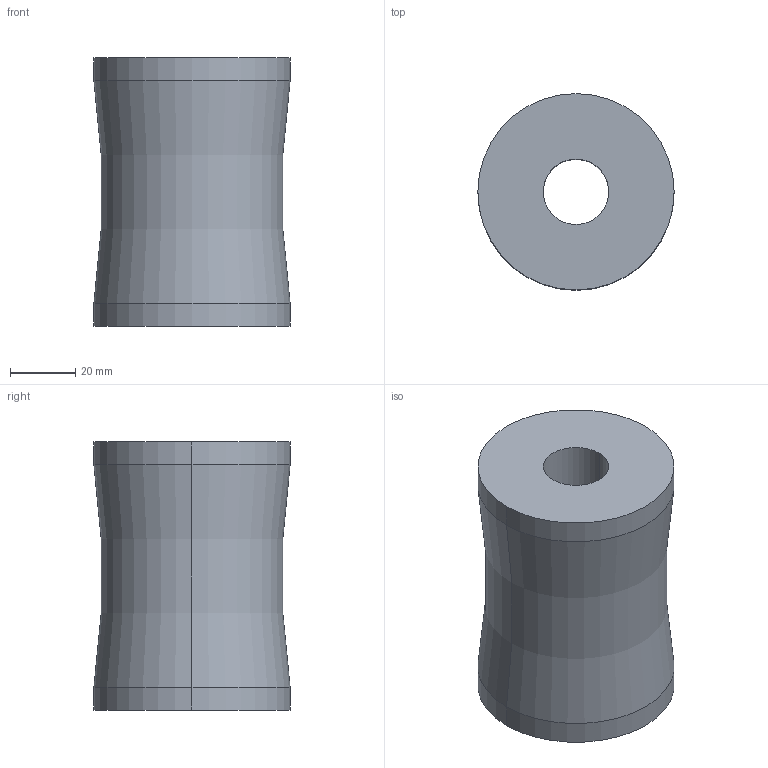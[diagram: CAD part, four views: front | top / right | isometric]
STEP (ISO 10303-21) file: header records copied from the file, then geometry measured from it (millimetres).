
FILE_DESCRIPTION(/* description */ (''),/* implementation_level */ '2;1');
FILE_NAME(/* name */ '3d_ex6208_06502_r00.stp',/* time_stamp */ '2011-01-10T14:15:38+09:00',/* author */ ('MISUMI'),/* organization */ (''),/* preprocessor_version */ 'ST-DEVELOPER v11',/* originating_system */ 'UGS - NX 5.0',/* authorisation */ '');
FILE_SCHEMA (('CONFIG_CONTROL_DESIGN'));
Length unit declared in the file: millimetre
Products named in the file (1): 3d_ex6208_06502_r00
Bounding box: 60 x 60 x 82 mm (x, y, z)
Volume: 185415.8 mm3; surface area: 24967.1 mm2
Topology: 1 solids, 1 shells, 10 faces, 20 edges, 12 vertices
Faces by surface type: cylinder 6, plane 2, torus 2
Entity records: 356 total; most frequent: DIRECTION 56, CARTESIAN_POINT 43, ORIENTED_EDGE 40, AXIS2_PLACEMENT_3D 25, EDGE_CURVE 20, CIRCLE 14, EDGE_LOOP 12, VERTEX_POINT 12
